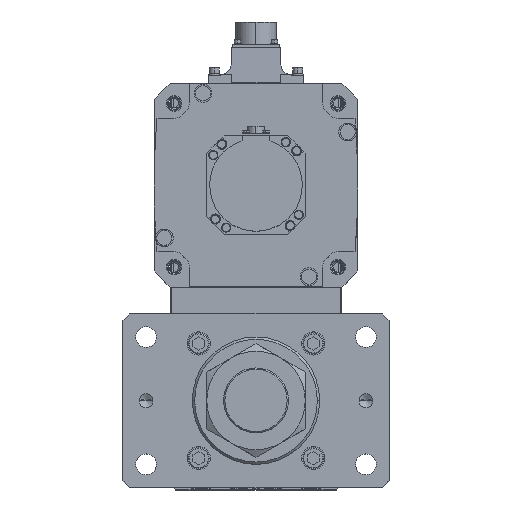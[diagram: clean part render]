
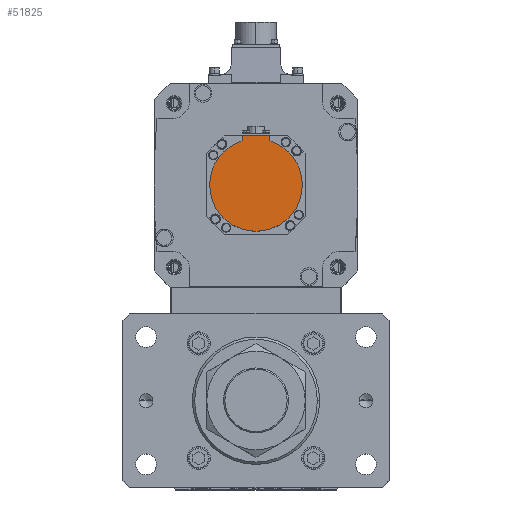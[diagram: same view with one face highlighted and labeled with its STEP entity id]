
A CAD part, top view. The second image highlights one B-rep face of the part: STEP entity #51825.
In plain terms, the highlighted planar face has unit normal (0, 0, 1) as drawn and (0, 0, -1) by its records, which use the part's own axes.
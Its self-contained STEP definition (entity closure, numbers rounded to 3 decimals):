
#619 = CIRCLE ( 'NONE', #28927, 40. ) ;
#2416 = VERTEX_POINT ( 'NONE', #6560 ) ;
#3730 = EDGE_CURVE ( 'NONE', #31219, #49495, #20207, .T. ) ;
#4456 = CARTESIAN_POINT ( 'NONE',  ( 0., -1.249, -162.5 ) ) ;
#4973 = DIRECTION ( 'NONE',  ( 0., 0., 1. ) ) ;
#5935 = ORIENTED_EDGE ( 'NONE', *, *, #3730, .F. ) ;
#6291 = AXIS2_PLACEMENT_3D ( 'NONE', #19439, #47549, #18736 ) ;
#6423 = CARTESIAN_POINT ( 'NONE',  ( -12., -40.329, -162.5 ) ) ;
#6560 = CARTESIAN_POINT ( 'NONE',  ( -12., -42.5, -162.5 ) ) ;
#7214 = DIRECTION ( 'NONE',  ( 0., 0., 1. ) ) ;
#7432 = AXIS2_PLACEMENT_3D ( 'NONE', #4456, #4973, #29419 ) ;
#9011 = VERTEX_POINT ( 'NONE', #26050 ) ;
#9241 = CARTESIAN_POINT ( 'NONE',  ( -40., 0., -162.5 ) ) ;
#10321 = EDGE_CURVE ( 'NONE', #39811, #43703, #619, .T. ) ;
#11318 = ORIENTED_EDGE ( 'NONE', *, *, #48218, .T. ) ;
#15956 = DIRECTION ( 'NONE',  ( 0., 1., 0. ) ) ;
#16716 = AXIS2_PLACEMENT_3D ( 'NONE', #25429, #29685, #37698 ) ;
#18736 = DIRECTION ( 'NONE',  ( 1., 0., 0. ) ) ;
#18923 = CARTESIAN_POINT ( 'NONE',  ( -12., -38.158, -162.5 ) ) ;
#19248 = EDGE_CURVE ( 'NONE', #2416, #49495, #42723, .T. ) ;
#19439 = CARTESIAN_POINT ( 'NONE',  ( 0., 0., -162.5 ) ) ;
#19765 = ORIENTED_EDGE ( 'NONE', *, *, #10321, .F. ) ;
#20069 = CARTESIAN_POINT ( 'NONE',  ( 12., -1.249, -162.5 ) ) ;
#20207 = CIRCLE ( 'NONE', #16716, 40. ) ;
#25429 = CARTESIAN_POINT ( 'NONE',  ( 0., 0., -162.5 ) ) ;
#25953 = ORIENTED_EDGE ( 'NONE', *, *, #47111, .F. ) ;
#26050 = CARTESIAN_POINT ( 'NONE',  ( 12., -42.5, -162.5 ) ) ;
#28185 = ORIENTED_EDGE ( 'NONE', *, *, #45884, .F. ) ;
#28927 = AXIS2_PLACEMENT_3D ( 'NONE', #31511, #7214, #35787 ) ;
#29069 = PLANE ( 'NONE',  #7432 ) ;
#29419 = DIRECTION ( 'NONE',  ( 1., 0., 0. ) ) ;
#29685 = DIRECTION ( 'NONE',  ( 0., 0., 1. ) ) ;
#30543 = FACE_OUTER_BOUND ( 'NONE', #38178, .T. ) ;
#30572 = DIRECTION ( 'NONE',  ( -1., 0., 0. ) ) ;
#31126 = LINE ( 'NONE', #20069, #39442 ) ;
#31219 = VERTEX_POINT ( 'NONE', #9241 ) ;
#31262 = CARTESIAN_POINT ( 'NONE',  ( 0., -42.5, -162.5 ) ) ;
#31511 = CARTESIAN_POINT ( 'NONE',  ( 0., 0., -162.5 ) ) ;
#34454 = DIRECTION ( 'NONE',  ( 0., 1., 0. ) ) ;
#34959 = CARTESIAN_POINT ( 'NONE',  ( 12., -38.158, -162.5 ) ) ;
#35787 = DIRECTION ( 'NONE',  ( 1., 0., 0. ) ) ;
#37698 = DIRECTION ( 'NONE',  ( 1., 0., 0. ) ) ;
#37828 = LINE ( 'NONE', #31262, #41630 ) ;
#38178 = EDGE_LOOP ( 'NONE', ( #52648, #5935, #25953, #19765, #28185, #11318 ) ) ;
#39442 = VECTOR ( 'NONE', #15956, 1000. ) ;
#39723 = CARTESIAN_POINT ( 'NONE',  ( 40., 0., -162.5 ) ) ;
#39811 = VERTEX_POINT ( 'NONE', #34959 ) ;
#41630 = VECTOR ( 'NONE', #30572, 1000. ) ;
#42723 = LINE ( 'NONE', #6423, #52240 ) ;
#43024 = CIRCLE ( 'NONE', #6291, 40. ) ;
#43703 = VERTEX_POINT ( 'NONE', #39723 ) ;
#45884 = EDGE_CURVE ( 'NONE', #9011, #39811, #31126, .T. ) ;
#47111 = EDGE_CURVE ( 'NONE', #43703, #31219, #43024, .T. ) ;
#47549 = DIRECTION ( 'NONE',  ( 0., 0., 1. ) ) ;
#48218 = EDGE_CURVE ( 'NONE', #9011, #2416, #37828, .T. ) ;
#49495 = VERTEX_POINT ( 'NONE', #18923 ) ;
#51825 = ADVANCED_FACE ( 'NONE', ( #30543 ), #29069, .F. ) ;
#52240 = VECTOR ( 'NONE', #34454, 1000. ) ;
#52648 = ORIENTED_EDGE ( 'NONE', *, *, #19248, .T. ) ;
